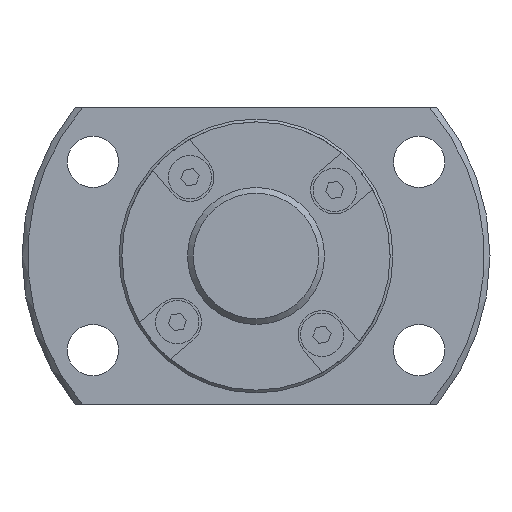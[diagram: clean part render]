
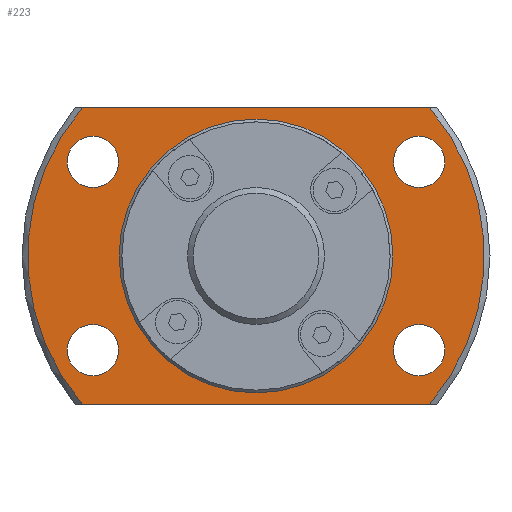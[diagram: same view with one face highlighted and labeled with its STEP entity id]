
A CAD part, left-side view. The second image highlights one B-rep face of the part: STEP entity #223.
In plain terms, the highlighted planar face has unit normal (-1, 0, 0).
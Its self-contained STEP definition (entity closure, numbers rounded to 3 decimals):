
#223 = ADVANCED_FACE( '', ( #502, #503, #504, #505, #506, #507 ), #508, .F. );
#502 = FACE_OUTER_BOUND( '', #866, .T. );
#503 = FACE_BOUND( '', #867, .T. );
#504 = FACE_BOUND( '', #868, .T. );
#505 = FACE_BOUND( '', #869, .T. );
#506 = FACE_BOUND( '', #870, .T. );
#507 = FACE_BOUND( '', #871, .T. );
#508 = PLANE( '', #872 );
#866 = EDGE_LOOP( '', ( #1360, #1361, #1362, #1363 ) );
#867 = EDGE_LOOP( '', ( #1364 ) );
#868 = EDGE_LOOP( '', ( #1365 ) );
#869 = EDGE_LOOP( '', ( #1366 ) );
#870 = EDGE_LOOP( '', ( #1367 ) );
#871 = EDGE_LOOP( '', ( #1368 ) );
#872 = AXIS2_PLACEMENT_3D( '', #1369, #1370, #1371 );
#1360 = ORIENTED_EDGE( '', *, *, #2048, .F. );
#1361 = ORIENTED_EDGE( '', *, *, #2049, .T. );
#1362 = ORIENTED_EDGE( '', *, *, #1999, .F. );
#1363 = ORIENTED_EDGE( '', *, *, #1947, .T. );
#1364 = ORIENTED_EDGE( '', *, *, #2050, .T. );
#1365 = ORIENTED_EDGE( '', *, *, #1967, .T. );
#1366 = ORIENTED_EDGE( '', *, *, #2051, .T. );
#1367 = ORIENTED_EDGE( '', *, *, #1992, .T. );
#1368 = ORIENTED_EDGE( '', *, *, #2029, .T. );
#1369 = CARTESIAN_POINT( '', ( 14.5, 11.75, 0. ) );
#1370 = DIRECTION( '', ( 1., 0., 0. ) );
#1371 = DIRECTION( '', ( 0., 0., -1. ) );
#1947 = EDGE_CURVE( '', #2266, #2273, #2275, .T. );
#1967 = EDGE_CURVE( '', #2308, #2308, #2309, .T. );
#1992 = EDGE_CURVE( '', #2352, #2352, #2353, .T. );
#1999 = EDGE_CURVE( '', #2266, #2363, #2364, .T. );
#2029 = EDGE_CURVE( '', #2411, #2411, #2412, .T. );
#2048 = EDGE_CURVE( '', #2441, #2273, #2442, .T. );
#2049 = EDGE_CURVE( '', #2441, #2363, #2443, .T. );
#2050 = EDGE_CURVE( '', #2444, #2444, #2445, .T. );
#2051 = EDGE_CURVE( '', #2446, #2446, #2447, .T. );
#2266 = VERTEX_POINT( '', #2731 );
#2273 = VERTEX_POINT( '', #2746 );
#2275 = LINE( '', #2751, #2752 );
#2308 = VERTEX_POINT( '', #2796 );
#2309 = CIRCLE( '', #2797, 2.25 );
#2352 = VERTEX_POINT( '', #2856 );
#2353 = CIRCLE( '', #2857, 2.25 );
#2363 = VERTEX_POINT( '', #2868 );
#2364 = CIRCLE( '', #2869, 20. );
#2411 = VERTEX_POINT( '', #2933 );
#2412 = CIRCLE( '', #2934, 11.75 );
#2441 = VERTEX_POINT( '', #2968 );
#2442 = CIRCLE( '', #2969, 20. );
#2443 = LINE( '', #2970, #2971 );
#2444 = VERTEX_POINT( '', #2972 );
#2445 = CIRCLE( '', #2973, 2.25 );
#2446 = VERTEX_POINT( '', #2974 );
#2447 = CIRCLE( '', #2975, 2.25 );
#2731 = CARTESIAN_POINT( '', ( 14.5, -15.199, 13. ) );
#2746 = CARTESIAN_POINT( '', ( 14.5, 15.199, 13. ) );
#2751 = CARTESIAN_POINT( '', ( 14.5, 11.75, 13. ) );
#2752 = VECTOR( '', #3287, 1000. );
#2796 = CARTESIAN_POINT( '', ( 14.5, -14.289, 6. ) );
#2797 = AXIS2_PLACEMENT_3D( '', #3308, #3309, #3310 );
#2856 = CARTESIAN_POINT( '', ( 14.5, 14.289, 6. ) );
#2857 = AXIS2_PLACEMENT_3D( '', #3333, #3334, #3335 );
#2868 = CARTESIAN_POINT( '', ( 14.5, -15.199, -13. ) );
#2869 = AXIS2_PLACEMENT_3D( '', #3346, #3347, #3348 );
#2933 = CARTESIAN_POINT( '', ( 14.5, 0., -11.75 ) );
#2934 = AXIS2_PLACEMENT_3D( '', #3390, #3391, #3392 );
#2968 = CARTESIAN_POINT( '', ( 14.5, 15.199, -13. ) );
#2969 = AXIS2_PLACEMENT_3D( '', #3422, #3423, #3424 );
#2970 = CARTESIAN_POINT( '', ( 14.5, 11.75, -13. ) );
#2971 = VECTOR( '', #3425, 1000. );
#2972 = CARTESIAN_POINT( '', ( 14.5, -14.289, -10.5 ) );
#2973 = AXIS2_PLACEMENT_3D( '', #3426, #3427, #3428 );
#2974 = CARTESIAN_POINT( '', ( 14.5, 14.289, -10.5 ) );
#2975 = AXIS2_PLACEMENT_3D( '', #3429, #3430, #3431 );
#3287 = DIRECTION( '', ( 0., 1., 0. ) );
#3308 = CARTESIAN_POINT( '', ( 14.5, -14.289, 8.25 ) );
#3309 = DIRECTION( '', ( 1., 0., 0. ) );
#3310 = DIRECTION( '', ( 0., 0., -1. ) );
#3333 = CARTESIAN_POINT( '', ( 14.5, 14.289, 8.25 ) );
#3334 = DIRECTION( '', ( 1., 0., 0. ) );
#3335 = DIRECTION( '', ( 0., 0., -1. ) );
#3346 = CARTESIAN_POINT( '', ( 14.5, 0., 0. ) );
#3347 = DIRECTION( '', ( 1., 0., 0. ) );
#3348 = DIRECTION( '', ( 0., 0., -1. ) );
#3390 = CARTESIAN_POINT( '', ( 14.5, 0., 0. ) );
#3391 = DIRECTION( '', ( 1., 0., 0. ) );
#3392 = DIRECTION( '', ( 0., 0., -1. ) );
#3422 = CARTESIAN_POINT( '', ( 14.5, 0., 0. ) );
#3423 = DIRECTION( '', ( 1., 0., 0. ) );
#3424 = DIRECTION( '', ( 0., 0., -1. ) );
#3425 = DIRECTION( '', ( 0., -1., 0. ) );
#3426 = CARTESIAN_POINT( '', ( 14.5, -14.289, -8.25 ) );
#3427 = DIRECTION( '', ( 1., 0., 0. ) );
#3428 = DIRECTION( '', ( 0., 0., -1. ) );
#3429 = CARTESIAN_POINT( '', ( 14.5, 14.289, -8.25 ) );
#3430 = DIRECTION( '', ( 1., 0., 0. ) );
#3431 = DIRECTION( '', ( 0., 0., -1. ) );
